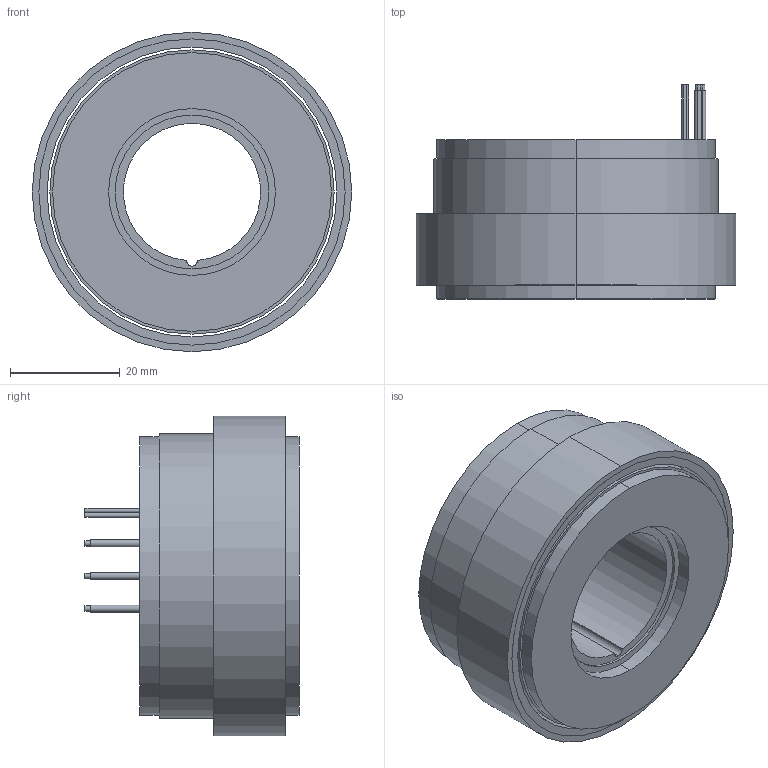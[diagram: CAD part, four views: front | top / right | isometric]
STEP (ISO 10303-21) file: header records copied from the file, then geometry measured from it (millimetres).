
FILE_DESCRIPTION (( 'STEP AP214' ), '1' );
FILE_NAME ('UE5829µç»ú.STEP', '2026-03-11T03:06:56', ( 'Windows User' ), ( 'P R C' ), 'SwSTEP 2.0', 'SolidWorks 2023', '' );
FILE_SCHEMA (( 'AUTOMOTIVE_DESIGN' ));
Length unit declared in the file: millimetre
Products named in the file (1): UE5829电机
Bounding box: 58.2 x 39 x 58.2 mm (x, y, z)
Volume: 50989.4 mm3; surface area: 15991.1 mm2
Topology: 2 solids, 2 shells, 61 faces, 123 edges, 82 vertices
Faces by surface type: cylinder 41, plane 20
Entity records: 1679 total; most frequent: DIRECTION 329, CARTESIAN_POINT 267, ORIENTED_EDGE 246, AXIS2_PLACEMENT_3D 144, EDGE_CURVE 123, CIRCLE 82, VERTEX_POINT 82, EDGE_LOOP 81
